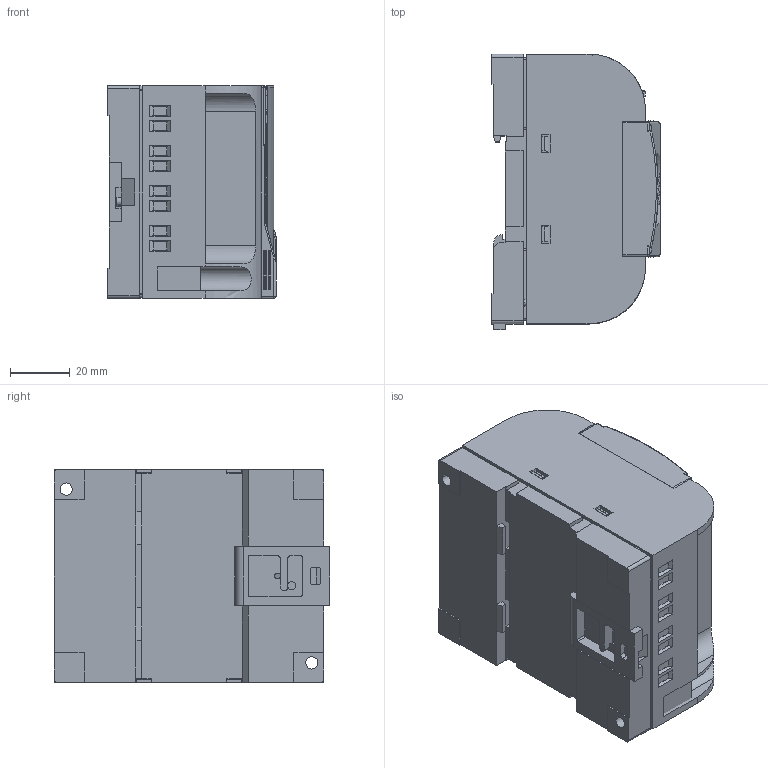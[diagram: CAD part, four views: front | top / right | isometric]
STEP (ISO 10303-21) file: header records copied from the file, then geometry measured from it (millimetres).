
FILE_DESCRIPTION (( 'STEP AP214' ), '1' );
FILE_NAME ('AF-10Mx-xx-CAP.STEP', '2021-11-19T09:36:32', ( '' ), ( '' ), 'SwSTEP 2.0', 'SolidWorks 2016', '' );
FILE_SCHEMA (( 'AUTOMOTIVE_DESIGN' ));
Length unit declared in the file: millimetre
Products named in the file (1): AF-10Mx-xx-CAP
Bounding box: 56.3 x 92 x 71 mm (x, y, z)
Surface area: 98133.5 mm2
Topology: 6 solids, 11 shells, 1078 faces, 2852 edges, 1837 vertices
Faces by surface type: plane 839, cylinder 173, bspline 39, sphere 10, torus 9, cone 8
Entity records: 45913 total; most frequent: CARTESIAN_POINT 7567, ORIENTED_EDGE 5680, DIRECTION 5094, EDGE_CURVE 2840, LINE 2314, VECTOR 2314, VERTEX_POINT 1837, AXIS2_PLACEMENT_3D 1390
